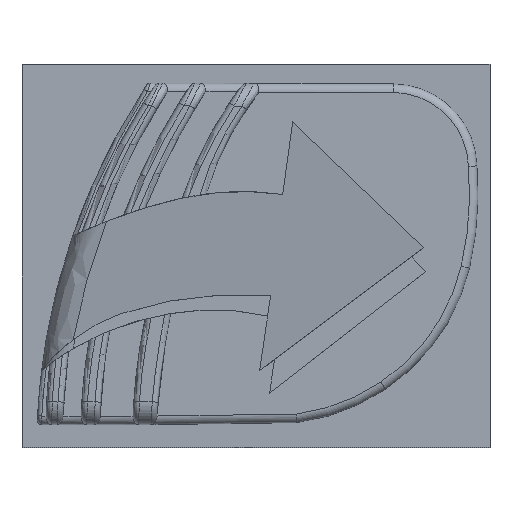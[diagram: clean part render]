
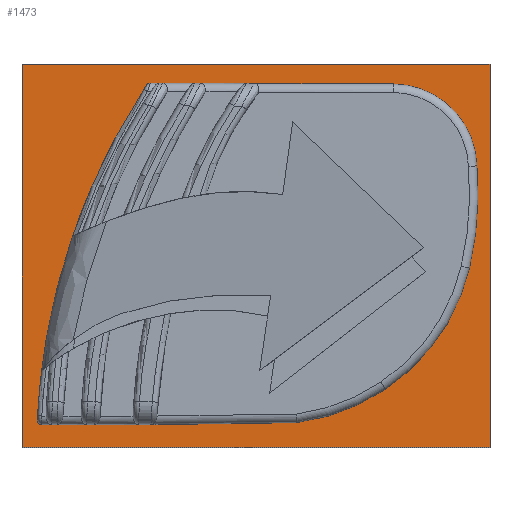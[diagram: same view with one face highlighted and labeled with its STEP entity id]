
A CAD part, top view. The second image highlights one B-rep face of the part: STEP entity #1473.
In plain terms, the highlighted planar face has unit normal (0, 0, 1).
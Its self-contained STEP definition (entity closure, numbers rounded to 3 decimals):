
#524=CARTESIAN_POINT('',(38.605,119.721,-5.0));
#525=VERTEX_POINT('',#524);
#532=CARTESIAN_POINT('',(0.07,1.572,-5.0));
#533=VERTEX_POINT('',#532);
#534=CARTESIAN_POINT('',(234.992,-9.691,-5.0));
#535=DIRECTION('',(0.0,0.0,-1.0));
#536=DIRECTION('',(1.0,0.0,0.0));
#537=AXIS2_PLACEMENT_3D('',#534,#535,#536);
#538=CIRCLE('',#537,235.191);
#539=EDGE_CURVE('',#533,#525,#538,.T.);
#650=CARTESIAN_POINT('',(76.585,120.247,-5.0));
#651=VERTEX_POINT('',#650);
#658=CARTESIAN_POINT('',(39.864,120.395,-5.0));
#659=VERTEX_POINT('',#658);
#660=CARTESIAN_POINT('',(42.049,120.386,-5.0));
#661=DIRECTION('',(-1.,0.004,0.0));
#662=VECTOR('',#661,1.);
#663=LINE('',#660,#662);
#664=EDGE_CURVE('',#651,#659,#663,.T.);
#720=CARTESIAN_POINT('',(125.67,120.077,-5.0));
#721=VERTEX_POINT('',#720);
#722=CARTESIAN_POINT('',(76.686,120.244,-5.0));
#723=VERTEX_POINT('',#722);
#724=CARTESIAN_POINT('',(125.67,120.077,-5.0));
#725=DIRECTION('',(-1.,0.003,0.0));
#726=VECTOR('',#725,1.);
#727=LINE('',#724,#726);
#728=EDGE_CURVE('',#721,#723,#727,.T.);
#770=CARTESIAN_POINT('',(155.041,91.189,-5.0));
#771=VERTEX_POINT('',#770);
#778=CARTESIAN_POINT('',(125.273,90.299,-5.0));
#779=DIRECTION('',(0.0,0.0,-1.0));
#780=DIRECTION('',(1.0,0.0,0.0));
#781=AXIS2_PLACEMENT_3D('',#778,#779,#780);
#782=CIRCLE('',#781,29.781);
#783=EDGE_CURVE('',#721,#771,#782,.T.);
#803=CARTESIAN_POINT('',(152.421,55.165,-5.0));
#804=VERTEX_POINT('',#803);
#811=CARTESIAN_POINT('',(38.458,81.561,-5.0));
#812=DIRECTION('',(0.0,0.0,-1.0));
#813=DIRECTION('',(1.0,0.0,0.0));
#814=AXIS2_PLACEMENT_3D('',#811,#812,#813);
#815=CIRCLE('',#814,116.98);
#816=EDGE_CURVE('',#771,#804,#815,.T.);
#836=CARTESIAN_POINT('',(122.741,12.427,-5.0));
#837=VERTEX_POINT('',#836);
#844=CARTESIAN_POINT('',(83.663,71.24,-5.0));
#845=DIRECTION('',(0.0,0.0,-1.0));
#846=DIRECTION('',(1.0,0.0,0.0));
#847=AXIS2_PLACEMENT_3D('',#844,#845,#846);
#848=CIRCLE('',#847,70.612);
#849=EDGE_CURVE('',#804,#837,#848,.T.);
#869=CARTESIAN_POINT('',(91.595,0.668,-5.0));
#870=VERTEX_POINT('',#869);
#877=CARTESIAN_POINT('',(82.171,72.757,-5.0));
#878=DIRECTION('',(0.0,0.0,-1.0));
#879=DIRECTION('',(1.0,0.0,0.0));
#880=AXIS2_PLACEMENT_3D('',#877,#878,#879);
#881=CIRCLE('',#880,72.702);
#882=EDGE_CURVE('',#837,#870,#881,.T.);
#901=CARTESIAN_POINT('',(42.002,0.,-5.0));
#902=VERTEX_POINT('',#901);
#909=CARTESIAN_POINT('',(91.595,0.668,-5.0));
#910=DIRECTION('',(-1.,-0.013,0.0));
#911=VECTOR('',#910,1.);
#912=LINE('',#909,#911);
#913=EDGE_CURVE('',#870,#902,#912,.T.);
#923=CARTESIAN_POINT('',(1.568,0.0,-5.0));
#924=VERTEX_POINT('',#923);
#925=CARTESIAN_POINT('',(3.052,0.0,-5.0));
#926=DIRECTION('',(-1.0,0.0,0.0));
#927=VECTOR('',#926,1.0);
#928=LINE('',#925,#927);
#929=EDGE_CURVE('',#902,#924,#928,.T.);
#1402=CARTESIAN_POINT('',(0.0,0.0,-5.0));
#1403=DIRECTION('',(0.0,0.0,-1.0));
#1404=DIRECTION('',(-1.0,0.0,0.0));
#1405=AXIS2_PLACEMENT_3D('',#1402,#1403,#1404);
#1406=PLANE('',#1405);
#1407=CARTESIAN_POINT('',(-5.35,-8.054,-5.0));
#1408=VERTEX_POINT('',#1407);
#1409=CARTESIAN_POINT('',(-5.35,126.946,-5.0));
#1410=VERTEX_POINT('',#1409);
#1411=CARTESIAN_POINT('',(-5.35,-8.054,-5.0));
#1412=DIRECTION('',(0.0,1.0,0.0));
#1413=VECTOR('',#1412,1.0);
#1414=LINE('',#1411,#1413);
#1415=EDGE_CURVE('',#1408,#1410,#1414,.T.);
#1416=ORIENTED_EDGE('',*,*,#1415,.F.);
#1417=CARTESIAN_POINT('',(159.65,-8.054,-5.0));
#1418=VERTEX_POINT('',#1417);
#1419=CARTESIAN_POINT('',(159.65,-8.054,-5.0));
#1420=DIRECTION('',(-1.0,0.0,0.0));
#1421=VECTOR('',#1420,1.0);
#1422=LINE('',#1419,#1421);
#1423=EDGE_CURVE('',#1418,#1408,#1422,.T.);
#1424=ORIENTED_EDGE('',*,*,#1423,.F.);
#1425=CARTESIAN_POINT('',(159.65,126.946,-5.0));
#1426=VERTEX_POINT('',#1425);
#1427=CARTESIAN_POINT('',(159.65,126.946,-5.0));
#1428=DIRECTION('',(0.0,-1.0,0.0));
#1429=VECTOR('',#1428,1.0);
#1430=LINE('',#1427,#1429);
#1431=EDGE_CURVE('',#1426,#1418,#1430,.T.);
#1432=ORIENTED_EDGE('',*,*,#1431,.F.);
#1433=CARTESIAN_POINT('',(-5.35,126.946,-5.0));
#1434=DIRECTION('',(1.0,0.0,0.0));
#1435=VECTOR('',#1434,1.0);
#1436=LINE('',#1433,#1435);
#1437=EDGE_CURVE('',#1410,#1426,#1436,.T.);
#1438=ORIENTED_EDGE('',*,*,#1437,.F.);
#1439=EDGE_LOOP('',(#1416,#1424,#1432,#1438));
#1440=FACE_OUTER_BOUND('',#1439,.T.);
#1441=ORIENTED_EDGE('',*,*,#913,.T.);
#1442=ORIENTED_EDGE('',*,*,#929,.T.);
#1443=CARTESIAN_POINT('',(1.568,1.5,-5.0));
#1444=DIRECTION('',(0.0,0.0,-1.0));
#1445=DIRECTION('',(-1.0,0.0,0.0));
#1446=AXIS2_PLACEMENT_3D('',#1443,#1444,#1445);
#1447=CIRCLE('',#1446,1.5);
#1448=EDGE_CURVE('',#924,#533,#1447,.T.);
#1449=ORIENTED_EDGE('',*,*,#1448,.T.);
#1450=ORIENTED_EDGE('',*,*,#539,.T.);
#1451=CARTESIAN_POINT('',(39.858,118.895,-5.0));
#1452=DIRECTION('',(0.0,0.0,-1.0));
#1453=DIRECTION('',(-1.0,0.0,0.0));
#1454=AXIS2_PLACEMENT_3D('',#1451,#1452,#1453);
#1455=CIRCLE('',#1454,1.5);
#1456=EDGE_CURVE('',#525,#659,#1455,.T.);
#1457=ORIENTED_EDGE('',*,*,#1456,.T.);
#1458=ORIENTED_EDGE('',*,*,#664,.F.);
#1459=CARTESIAN_POINT('',(76.577,118.247,-5.0));
#1460=DIRECTION('',(0.0,0.0,-1.0));
#1461=DIRECTION('',(-1.0,0.0,0.0));
#1462=AXIS2_PLACEMENT_3D('',#1459,#1460,#1461);
#1463=CIRCLE('',#1462,2.0);
#1464=EDGE_CURVE('',#651,#723,#1463,.T.);
#1465=ORIENTED_EDGE('',*,*,#1464,.T.);
#1466=ORIENTED_EDGE('',*,*,#728,.F.);
#1467=ORIENTED_EDGE('',*,*,#783,.T.);
#1468=ORIENTED_EDGE('',*,*,#816,.T.);
#1469=ORIENTED_EDGE('',*,*,#849,.T.);
#1470=ORIENTED_EDGE('',*,*,#882,.T.);
#1471=EDGE_LOOP('',(#1441,#1442,#1449,#1450,#1457,#1458,#1465,#1466,#1467,#1468,#1469,#1470));
#1472=FACE_BOUND('',#1471,.T.);
#1473=ADVANCED_FACE('',(#1440,#1472),#1406,.F.);
